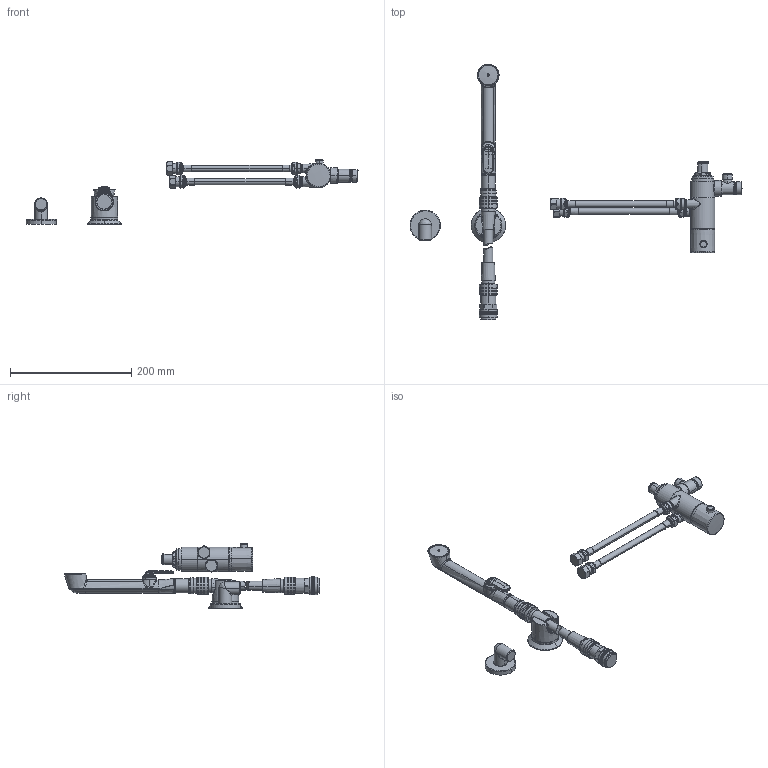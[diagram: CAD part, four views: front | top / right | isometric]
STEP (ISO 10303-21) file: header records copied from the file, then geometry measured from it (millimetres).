
FILE_DESCRIPTION (( 'STEP AP203' ), '1' );
FILE_NAME ('197103Z(2024).STEP', '2023-11-06T08:38:10', ( '' ), ( '' ), 'SwSTEP 2.0', 'SolidWorks 2016', '' );
FILE_SCHEMA (( 'CONFIG_CONTROL_DESIGN' ));
Products named in the file (1): 197103Z(2024)
Bounding box: 547.04 x 421.07 x 106.59 mm (x, y, z)
Volume: 548493.8 mm3; surface area: 127922.5 mm2
Topology: 28 solids, 28 shells, 2688 faces, 6282 edges, 4084 vertices
Faces by surface type: plane 1415, bspline 586, cylinder 456, cone 158, torus 73
Entity records: 107376 total; most frequent: CARTESIAN_POINT 55692, ORIENTED_EDGE 12552, DIRECTION 8448, EDGE_CURVE 6276, VERTEX_POINT 4084, AXIS2_PLACEMENT_3D 3474, EDGE_LOOP 3128, ADVANCED_FACE 2688
